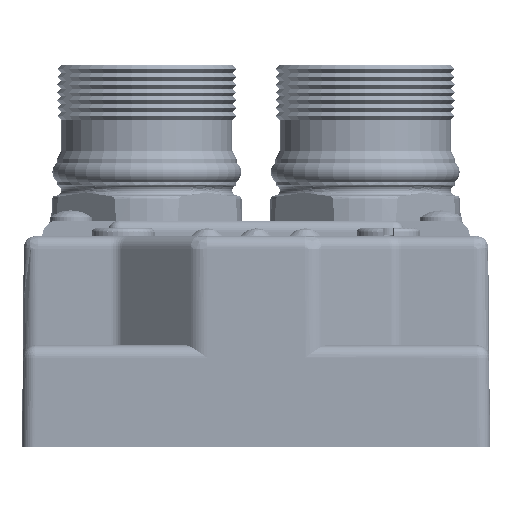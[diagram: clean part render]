
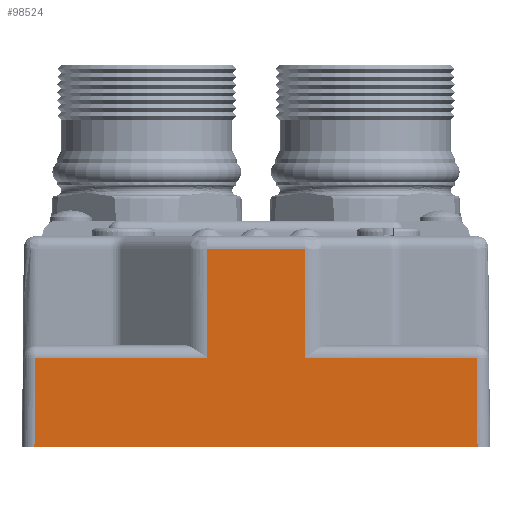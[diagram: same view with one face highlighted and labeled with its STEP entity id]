
A CAD part, left-side view. The second image highlights one B-rep face of the part: STEP entity #98524.
In plain terms, the highlighted planar face has unit normal (-1, 0, 0).
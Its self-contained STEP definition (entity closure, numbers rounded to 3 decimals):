
#94647=CARTESIAN_POINT('',(-86.932,-28.3,-3.1));
#94648=VERTEX_POINT('',#94647);
#94733=CARTESIAN_POINT('',(-86.932,-28.4,-14.5));
#94734=VERTEX_POINT('',#94733);
#94751=CARTESIAN_POINT('',(-86.932,-28.3,-3.1));
#94752=DIRECTION('',(0.0,-0.009,-1.));
#94753=VECTOR('',#94752,11.4);
#94754=LINE('',#94751,#94753);
#94755=EDGE_CURVE('',#94648,#94734,#94754,.T.);
#94765=CARTESIAN_POINT('',(-86.932,-6.272,-3.1));
#94766=VERTEX_POINT('',#94765);
#94794=CARTESIAN_POINT('',(-86.932,-6.272,-3.1));
#94795=DIRECTION('',(0.0,-1.0,0.0));
#94796=VECTOR('',#94795,22.028);
#94797=LINE('',#94794,#94796);
#94798=EDGE_CURVE('',#94766,#94648,#94797,.T.);
#94916=CARTESIAN_POINT('',(-86.932,28.4,-14.5));
#94917=VERTEX_POINT('',#94916);
#94918=CARTESIAN_POINT('',(-86.932,-28.4,-14.5));
#94919=DIRECTION('',(0.0,1.0,0.0));
#94920=VECTOR('',#94919,56.8);
#94921=LINE('',#94918,#94920);
#94922=EDGE_CURVE('',#94734,#94917,#94921,.T.);
#95483=CARTESIAN_POINT('',(-86.932,28.3,-3.1));
#95484=VERTEX_POINT('',#95483);
#95534=CARTESIAN_POINT('',(-86.932,6.272,-3.1));
#95535=VERTEX_POINT('',#95534);
#95536=CARTESIAN_POINT('',(-86.932,28.3,-3.1));
#95537=DIRECTION('',(0.0,-1.0,0.0));
#95538=VECTOR('',#95537,22.028);
#95539=LINE('',#95536,#95538);
#95540=EDGE_CURVE('',#95484,#95535,#95539,.T.);
#95629=CARTESIAN_POINT('',(-86.932,28.4,-14.5));
#95630=DIRECTION('',(0.,-0.009,1.));
#95631=VECTOR('',#95630,11.4);
#95632=LINE('',#95629,#95631);
#95633=EDGE_CURVE('',#94917,#95484,#95632,.T.);
#96540=CARTESIAN_POINT('',(-86.932,-6.272,10.9));
#96541=VERTEX_POINT('',#96540);
#97172=CARTESIAN_POINT('',(-86.932,6.272,10.9));
#97173=VERTEX_POINT('',#97172);
#97174=CARTESIAN_POINT('',(-86.932,6.272,10.9));
#97175=DIRECTION('',(0.0,-1.0,0.0));
#97176=VECTOR('',#97175,12.544);
#97177=LINE('',#97174,#97176);
#97178=EDGE_CURVE('',#97173,#96541,#97177,.T.);
#98328=CARTESIAN_POINT('',(-86.932,6.272,10.9));
#98329=DIRECTION('',(0.0,0.0,-1.0));
#98330=VECTOR('',#98329,14.);
#98331=LINE('',#98328,#98330);
#98332=EDGE_CURVE('',#97173,#95535,#98331,.T.);
#98432=CARTESIAN_POINT('',(-86.932,-6.272,-3.1));
#98433=DIRECTION('',(0.0,0.0,1.0));
#98434=VECTOR('',#98433,14.);
#98435=LINE('',#98432,#98434);
#98436=EDGE_CURVE('',#94766,#96541,#98435,.T.);
#98509=CARTESIAN_POINT('',(-86.932,0.,-1.138));
#98510=DIRECTION('',(1.0,0.0,0.0));
#98511=DIRECTION('',(0.0,0.0,-1.0));
#98512=AXIS2_PLACEMENT_3D('',#98509,#98510,#98511);
#98513=PLANE('',#98512);
#98514=ORIENTED_EDGE('',*,*,#98436,.T.);
#98515=ORIENTED_EDGE('',*,*,#97178,.F.);
#98516=ORIENTED_EDGE('',*,*,#98332,.T.);
#98517=ORIENTED_EDGE('',*,*,#95540,.F.);
#98518=ORIENTED_EDGE('',*,*,#95633,.F.);
#98519=ORIENTED_EDGE('',*,*,#94922,.F.);
#98520=ORIENTED_EDGE('',*,*,#94755,.F.);
#98521=ORIENTED_EDGE('',*,*,#94798,.F.);
#98522=EDGE_LOOP('',(#98514,#98515,#98516,#98517,#98518,#98519,#98520,#98521));
#98523=FACE_OUTER_BOUND('',#98522,.T.);
#98524=ADVANCED_FACE('',(#98523),#98513,.F.);
